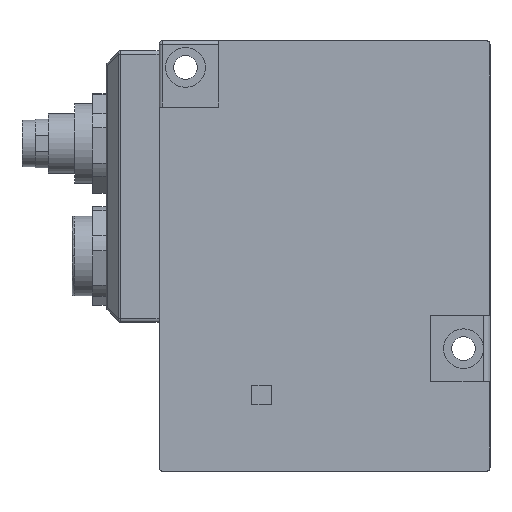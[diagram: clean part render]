
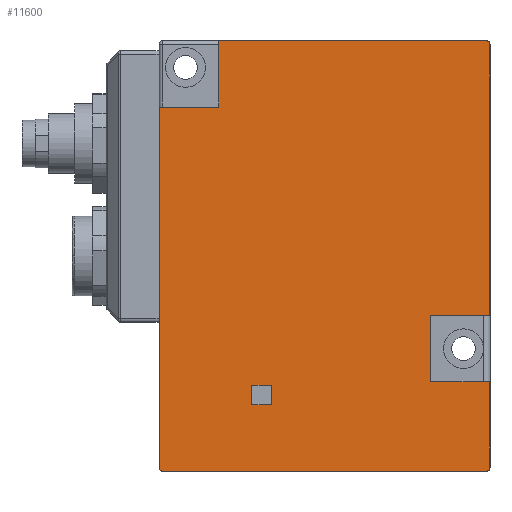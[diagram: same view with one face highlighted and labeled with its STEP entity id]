
A CAD part, front view. The second image highlights one B-rep face of the part: STEP entity #11600.
In plain terms, the highlighted planar face has unit normal (0, -1, 0).
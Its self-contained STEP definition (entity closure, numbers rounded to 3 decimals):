
#594 = PLANE ( 'NONE',  #11113 ) ;
#595 = CARTESIAN_POINT ( 'NONE',  ( 0., 0., -65. ) ) ;
#596 = DIRECTION ( 'NONE',  ( 0., -1., 0. ) ) ;
#597 = DIRECTION ( 'NONE',  ( 0., 0., -1. ) ) ;
#1607 = ORIENTED_EDGE ( 'NONE', *, *, #6909, .F. ) ;
#1608 = ORIENTED_EDGE ( 'NONE', *, *, #6910, .T. ) ;
#1609 = ORIENTED_EDGE ( 'NONE', *, *, #6911, .T. ) ;
#1610 = ORIENTED_EDGE ( 'NONE', *, *, #6912, .F. ) ;
#1611 = ORIENTED_EDGE ( 'NONE', *, *, #6913, .F. ) ;
#1612 = ORIENTED_EDGE ( 'NONE', *, *, #6914, .F. ) ;
#1613 = ORIENTED_EDGE ( 'NONE', *, *, #6915, .F. ) ;
#1614 = ORIENTED_EDGE ( 'NONE', *, *, #6916, .T. ) ;
#1615 = ORIENTED_EDGE ( 'NONE', *, *, #6917, .F. ) ;
#1616 = ORIENTED_EDGE ( 'NONE', *, *, #6918, .T. ) ;
#1617 = ORIENTED_EDGE ( 'NONE', *, *, #6919, .T. ) ;
#1618 = ORIENTED_EDGE ( 'NONE', *, *, #6920, .F. ) ;
#1619 = ORIENTED_EDGE ( 'NONE', *, *, #6921, .F. ) ;
#1620 = ORIENTED_EDGE ( 'NONE', *, *, #6922, .F. ) ;
#1621 = ORIENTED_EDGE ( 'NONE', *, *, #6923, .F. ) ;
#1622 = ORIENTED_EDGE ( 'NONE', *, *, #6924, .F. ) ;
#1623 = ORIENTED_EDGE ( 'NONE', *, *, #6925, .F. ) ;
#1752 = EDGE_LOOP ( 'NONE', ( #1620, #1621, #1622, #1623 ) ) ;
#3239 = AXIS2_PLACEMENT_3D ( 'NONE', #7976, #7977, #7978 ) ;
#3244 = AXIS2_PLACEMENT_3D ( 'NONE', #7740, #7741, #7742 ) ;
#3253 = AXIS2_PLACEMENT_3D ( 'NONE', #7729, #7730, #7731 ) ;
#4715 = LINE ( 'NONE', #7725, #4717 ) ;
#4717 = VECTOR ( 'NONE', #7726, 1000. ) ;
#4718 = LINE ( 'NONE', #7727, #4719 ) ;
#4719 = VECTOR ( 'NONE', #7728, 1000. ) ;
#4720 = LINE ( 'NONE', #7732, #4722 ) ;
#4721 = CIRCLE ( 'NONE', #3253, 0.5 ) ;
#4722 = VECTOR ( 'NONE', #7733, 1000. ) ;
#4723 = LINE ( 'NONE', #7734, #4724 ) ;
#4724 = VECTOR ( 'NONE', #7735, 1000. ) ;
#4725 = LINE ( 'NONE', #7736, #4726 ) ;
#4726 = VECTOR ( 'NONE', #7737, 1000. ) ;
#4727 = LINE ( 'NONE', #7738, #4728 ) ;
#4728 = VECTOR ( 'NONE', #7739, 1000. ) ;
#4729 = LINE ( 'NONE', #7743, #4731 ) ;
#4730 = CIRCLE ( 'NONE', #3244, 0.5 ) ;
#4731 = VECTOR ( 'NONE', #7744, 1000. ) ;
#4732 = LINE ( 'NONE', #7979, #4734 ) ;
#4733 = CIRCLE ( 'NONE', #3239, 0.5 ) ;
#4734 = VECTOR ( 'NONE', #7980, 1000. ) ;
#4735 = LINE ( 'NONE', #7981, #4736 ) ;
#4736 = VECTOR ( 'NONE', #7982, 1000. ) ;
#4737 = LINE ( 'NONE', #7983, #4738 ) ;
#4738 = VECTOR ( 'NONE', #7984, 1000. ) ;
#4739 = LINE ( 'NONE', #7985, #4740 ) ;
#4740 = VECTOR ( 'NONE', #7986, 1000. ) ;
#4741 = LINE ( 'NONE', #7987, #4742 ) ;
#4742 = VECTOR ( 'NONE', #7988, 1000. ) ;
#4743 = LINE ( 'NONE', #7989, #4744 ) ;
#4744 = VECTOR ( 'NONE', #7990, 1000. ) ;
#4745 = LINE ( 'NONE', #7991, #4746 ) ;
#4746 = VECTOR ( 'NONE', #7992, 1000. ) ;
#6909 = EDGE_CURVE ( '������39', #7943, #7771, #4715, .T. ) ;
#6910 = EDGE_CURVE ( '������17', #7943, #7864, #4718, .T. ) ;
#6911 = EDGE_CURVE ( 'NONE', #7864, #7913, #4721, .T. ) ;
#6912 = EDGE_CURVE ( 'NONE', #7918, #7913, #4720, .T. ) ;
#6913 = EDGE_CURVE ( '������1', #7763, #7918, #4723, .T. ) ;
#6914 = EDGE_CURVE ( '������48', #7812, #7763, #4725, .T. ) ;
#6915 = EDGE_CURVE ( 'NONE', #7972, #7812, #4727, .T. ) ;
#6916 = EDGE_CURVE ( 'NONE', #7972, #7824, #4730, .T. ) ;
#6917 = EDGE_CURVE ( '������85', #7897, #7824, #4729, .T. ) ;
#6918 = EDGE_CURVE ( 'NONE', #7897, #7773, #4733, .T. ) ;
#6919 = EDGE_CURVE ( '������100', #7773, #7884, #4732, .T. ) ;
#6920 = EDGE_CURVE ( '������45', #7768, #7884, #4735, .T. ) ;
#6921 = EDGE_CURVE ( '������13', #7771, #7768, #4737, .T. ) ;
#6922 = EDGE_CURVE ( 'NONE', #7849, #7807, #4739, .T. ) ;
#6923 = EDGE_CURVE ( 'NONE', #7965, #7849, #4741, .T. ) ;
#6924 = EDGE_CURVE ( 'NONE', #7930, #7965, #4743, .T. ) ;
#6925 = EDGE_CURVE ( 'NONE', #7807, #7930, #4745, .T. ) ;
#7725 = CARTESIAN_POINT ( 'NONE',  ( 50., 0., -41.5 ) ) ;
#7726 = DIRECTION ( 'NONE',  ( -1., 0., 0. ) ) ;
#7727 = CARTESIAN_POINT ( 'NONE',  ( 49.866, 0., -41.5 ) ) ;
#7728 = DIRECTION ( 'NONE',  ( 0., 0., 1. ) ) ;
#7729 = CARTESIAN_POINT ( 'NONE',  ( 49.5, 0., -0.5 ) ) ;
#7730 = DIRECTION ( 'NONE',  ( 0., -1., 0. ) ) ;
#7731 = DIRECTION ( 'NONE',  ( 0., 0., -1. ) ) ;
#7732 = CARTESIAN_POINT ( 'NONE',  ( 0., 0., 0. ) ) ;
#7733 = DIRECTION ( 'NONE',  ( 1., 0., 0. ) ) ;
#7734 = CARTESIAN_POINT ( 'NONE',  ( 9., 0., 0. ) ) ;
#7735 = DIRECTION ( 'NONE',  ( 0., 0., 1. ) ) ;
#7736 = CARTESIAN_POINT ( 'NONE',  ( 0., 0., -10. ) ) ;
#7737 = DIRECTION ( 'NONE',  ( 1., 0., 0. ) ) ;
#7738 = CARTESIAN_POINT ( 'NONE',  ( 0., 0., 0. ) ) ;
#7739 = DIRECTION ( 'NONE',  ( 0., 0., 1. ) ) ;
#7740 = CARTESIAN_POINT ( 'NONE',  ( 0.5, 0., -64.5 ) ) ;
#7741 = DIRECTION ( 'NONE',  ( 0., -1., 0. ) ) ;
#7742 = DIRECTION ( 'NONE',  ( 0., 0., -1. ) ) ;
#7743 = CARTESIAN_POINT ( 'NONE',  ( 0., 0., -65. ) ) ;
#7744 = DIRECTION ( 'NONE',  ( -1., 0., 0. ) ) ;
#7763 = VERTEX_POINT ( 'NONE', #8272 ) ;
#7768 = VERTEX_POINT ( 'NONE', #8277 ) ;
#7771 = VERTEX_POINT ( 'NONE', #8280 ) ;
#7773 = VERTEX_POINT ( 'NONE', #8282 ) ;
#7807 = VERTEX_POINT ( 'NONE', #8316 ) ;
#7812 = VERTEX_POINT ( 'NONE', #8321 ) ;
#7824 = VERTEX_POINT ( 'NONE', #8333 ) ;
#7849 = VERTEX_POINT ( 'NONE', #8358 ) ;
#7864 = VERTEX_POINT ( 'NONE', #8373 ) ;
#7884 = VERTEX_POINT ( 'NONE', #8393 ) ;
#7897 = VERTEX_POINT ( 'NONE', #8406 ) ;
#7913 = VERTEX_POINT ( 'NONE', #8422 ) ;
#7918 = VERTEX_POINT ( 'NONE', #8427 ) ;
#7930 = VERTEX_POINT ( 'NONE', #8439 ) ;
#7943 = VERTEX_POINT ( 'NONE', #8452 ) ;
#7965 = VERTEX_POINT ( 'NONE', #8474 ) ;
#7972 = VERTEX_POINT ( 'NONE', #8481 ) ;
#7976 = CARTESIAN_POINT ( 'NONE',  ( 49.5, 0., -64.5 ) ) ;
#7977 = DIRECTION ( 'NONE',  ( 0., -1., 0. ) ) ;
#7978 = DIRECTION ( 'NONE',  ( 0., 0., -1. ) ) ;
#7979 = CARTESIAN_POINT ( 'NONE',  ( 49.866, 0., -64.841 ) ) ;
#7980 = DIRECTION ( 'NONE',  ( 0., 0., 1. ) ) ;
#7981 = CARTESIAN_POINT ( 'NONE',  ( 50., 0., -51.5 ) ) ;
#7982 = DIRECTION ( 'NONE',  ( 1., 0., 0. ) ) ;
#7983 = CARTESIAN_POINT ( 'NONE',  ( 41., 0., -41.5 ) ) ;
#7984 = DIRECTION ( 'NONE',  ( 0., 0., -1. ) ) ;
#7985 = CARTESIAN_POINT ( 'NONE',  ( 14., 0., -55. ) ) ;
#7986 = DIRECTION ( 'NONE',  ( 1., 0., 0. ) ) ;
#7987 = CARTESIAN_POINT ( 'NONE',  ( 14., 0., -52. ) ) ;
#7988 = DIRECTION ( 'NONE',  ( 0., 0., -1. ) ) ;
#7989 = CARTESIAN_POINT ( 'NONE',  ( 14., 0., -52. ) ) ;
#7990 = DIRECTION ( 'NONE',  ( -1., 0., 0. ) ) ;
#7991 = CARTESIAN_POINT ( 'NONE',  ( 17., 0., -52. ) ) ;
#7992 = DIRECTION ( 'NONE',  ( 0., 0., 1. ) ) ;
#8272 = CARTESIAN_POINT ( 'NONE',  ( 9., 0., -10. ) ) ;
#8277 = CARTESIAN_POINT ( 'NONE',  ( 41., 0., -51.5 ) ) ;
#8280 = CARTESIAN_POINT ( 'NONE',  ( 41., 0., -41.5 ) ) ;
#8282 = CARTESIAN_POINT ( 'NONE',  ( 49.866, 0., -64.841 ) ) ;
#8316 = CARTESIAN_POINT ( 'NONE',  ( 17., 0., -55. ) ) ;
#8321 = CARTESIAN_POINT ( 'NONE',  ( 0., 0., -10. ) ) ;
#8333 = CARTESIAN_POINT ( 'NONE',  ( 0.5, 0., -65. ) ) ;
#8358 = CARTESIAN_POINT ( 'NONE',  ( 14., 0., -55. ) ) ;
#8373 = CARTESIAN_POINT ( 'NONE',  ( 49.866, 0., -0.159 ) ) ;
#8393 = CARTESIAN_POINT ( 'NONE',  ( 49.866, 0., -51.5 ) ) ;
#8406 = CARTESIAN_POINT ( 'NONE',  ( 49.5, 0., -65. ) ) ;
#8422 = CARTESIAN_POINT ( 'NONE',  ( 49.5, 0., 0. ) ) ;
#8427 = CARTESIAN_POINT ( 'NONE',  ( 9., 0., 0. ) ) ;
#8439 = CARTESIAN_POINT ( 'NONE',  ( 17., 0., -52. ) ) ;
#8452 = CARTESIAN_POINT ( 'NONE',  ( 49.866, 0., -41.5 ) ) ;
#8474 = CARTESIAN_POINT ( 'NONE',  ( 14., 0., -52. ) ) ;
#8481 = CARTESIAN_POINT ( 'NONE',  ( 0., 0., -64.5 ) ) ;
#9194 = FACE_OUTER_BOUND ( 'NONE', #10013, .T. ) ;
#9195 = FACE_BOUND ( 'NONE', #1752, .T. ) ;
#10013 = EDGE_LOOP ( 'NONE', ( #1607, #1608, #1609, #1610, #1611, #1612, #1613, #1614, #1615, #1616, #1617, #1618, #1619 ) ) ;
#11113 = AXIS2_PLACEMENT_3D ( 'NONE', #595, #596, #597 ) ;
#11600 = ADVANCED_FACE ( '�����12', ( #9194, #9195 ), #594, .T. ) ;
